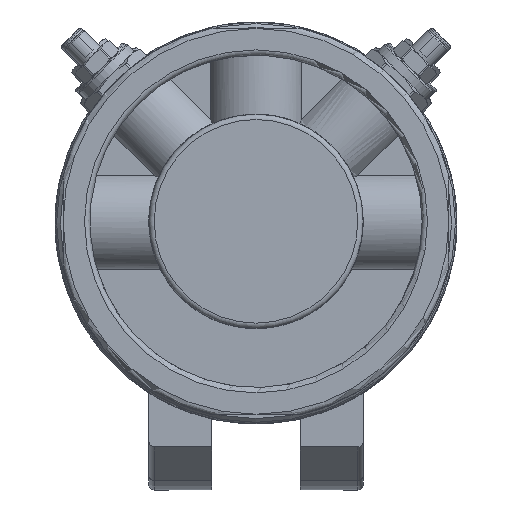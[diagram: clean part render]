
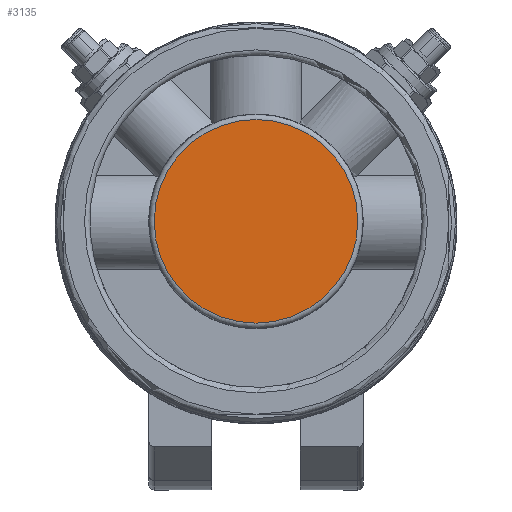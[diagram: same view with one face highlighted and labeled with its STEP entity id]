
A CAD part, top view. The second image highlights one B-rep face of the part: STEP entity #3135.
In plain terms, the highlighted planar face has unit normal (0, 0, 1).
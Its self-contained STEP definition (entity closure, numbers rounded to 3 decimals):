
#2824=CARTESIAN_POINT('',(19.,0.,195.5));
#2825=VERTEX_POINT('',#2824);
#2826=CARTESIAN_POINT('',(0.,0.,195.5));
#2827=DIRECTION('',(0.0,0.0,-1.0));
#2828=DIRECTION('',(-1.0,0.0,0.0));
#2829=AXIS2_PLACEMENT_3D('',#2826,#2827,#2828);
#2830=CIRCLE('',#2829,19.0);
#2831=EDGE_CURVE('',#2825,#2825,#2830,.T.);
#3127=CARTESIAN_POINT('',(0.,0.,195.5));
#3128=DIRECTION('',(0.0,0.0,-1.0));
#3129=DIRECTION('',(-1.0,0.0,0.0));
#3130=AXIS2_PLACEMENT_3D('',#3127,#3128,#3129);
#3131=PLANE('',#3130);
#3132=ORIENTED_EDGE('',*,*,#2831,.F.);
#3133=EDGE_LOOP('',(#3132));
#3134=FACE_OUTER_BOUND('',#3133,.T.);
#3135=ADVANCED_FACE('',(#3134),#3131,.F.);
